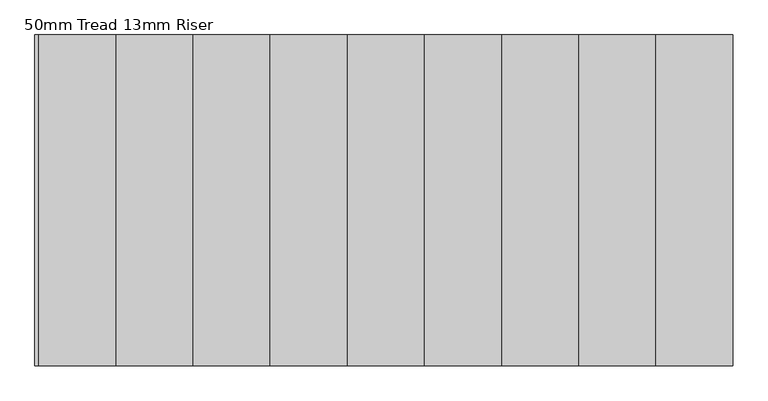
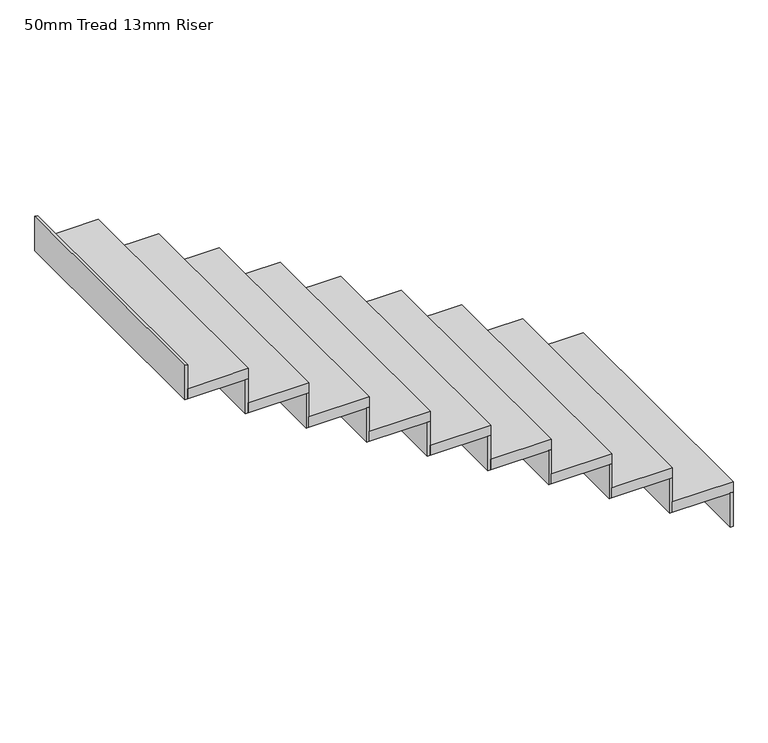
"""IFC4 building model written with IfcOpenShell, lengths in millimetres: stair flight geometry, 50mm Tread 13mm Riser."""

from ifc_helpers import new_model, si_unit, frame, origin, place, context, project, spatial, polyline, outline, extrude, source, transform, mapped, element, save


def stair_flight_50mm_tread_13mm_riser_bf7483d6(model_context):
    return source(origin(), model_context, "Body", "SweptSolid", [
        extrude(outline(polyline([(-80889.6407976, 11339.2777512), (-80877.1407976, 11339.2777512), (-80877.1407976, 10139.2777512), (-80889.6407976, 10139.2777512), (-80889.6407976, 11339.2777512)])), frame((0.0, 0.0, 45959.7115278), z_axis=(0.0, 0.0, 1.0), x_axis=(1.0, 0.0, 0.0)), (0.0, 0.0, 1.0), 167.2465025),
        extrude(outline(polyline([(-81157.1407976, 10139.2777512), (-81157.1407976, 11339.2777512), (-80877.1407976, 11339.2777512), (-80877.1407976, 10139.2777512), (-81157.1407976, 10139.2777512)])), frame((0.0, 0.0, 46126.9580303), z_axis=(0.0, 0.0, 1.0), x_axis=(1.0, 0.0, 0.0)), (0.0, 0.0, 1.0), 50.0),
        extrude(outline(polyline([(-81169.6407976, 11339.2777512), (-81157.1407976, 11339.2777512), (-81157.1407976, 10139.2777512), (-81169.6407976, 10139.2777512), (-81169.6407976, 11339.2777512)])), frame((0.0, 0.0, 46126.9580303), z_axis=(0.0, 0.0, 1.0), x_axis=(1.0, 0.0, 0.0)), (0.0, 0.0, 1.0), 167.2465025),
        extrude(outline(polyline([(-81437.1407976, 10139.2777512), (-81437.1407976, 11339.2777512), (-81157.1407976, 11339.2777512), (-81157.1407976, 10139.2777512), (-81437.1407976, 10139.2777512)])), frame((0.0, 0.0, 46294.2045329), z_axis=(0.0, 0.0, 1.0), x_axis=(1.0, 0.0, 0.0)), (0.0, 0.0, 1.0), 50.0),
        extrude(outline(polyline([(-81449.6407976, 11339.2777512), (-81437.1407976, 11339.2777512), (-81437.1407976, 10139.2777512), (-81449.6407976, 10139.2777512), (-81449.6407976, 11339.2777512)])), frame((0.0, 0.0, 46294.2045329), z_axis=(0.0, 0.0, 1.0), x_axis=(1.0, 0.0, 0.0)), (0.0, 0.0, 1.0), 167.2465025),
        extrude(outline(polyline([(-81717.1407976, 10139.2777512), (-81717.1407976, 11339.2777512), (-81437.1407976, 11339.2777512), (-81437.1407976, 10139.2777512), (-81717.1407976, 10139.2777512)])), frame((0.0, 0.0, 46461.4510354), z_axis=(0.0, 0.0, 1.0), x_axis=(1.0, 0.0, 0.0)), (0.0, 0.0, 1.0), 50.0),
        extrude(outline(polyline([(-81729.6407976, 11339.2777512), (-81717.1407976, 11339.2777512), (-81717.1407976, 10139.2777512), (-81729.6407976, 10139.2777512), (-81729.6407976, 11339.2777512)])), frame((0.0, 0.0, 46461.4510354), z_axis=(0.0, 0.0, 1.0), x_axis=(1.0, 0.0, 0.0)), (0.0, 0.0, 1.0), 167.2465025),
        extrude(outline(polyline([(-81997.1407976, 10139.2777512), (-81997.1407976, 11339.2777512), (-81717.1407976, 11339.2777512), (-81717.1407976, 10139.2777512), (-81997.1407976, 10139.2777512)])), frame((0.0, 0.0, 46628.6975379), z_axis=(0.0, 0.0, 1.0), x_axis=(1.0, 0.0, 0.0)), (0.0, 0.0, 1.0), 50.0),
        extrude(outline(polyline([(-82009.6407976, 11339.2777512), (-81997.1407976, 11339.2777512), (-81997.1407976, 10139.2777512), (-82009.6407976, 10139.2777512), (-82009.6407976, 11339.2777512)])), frame((0.0, 0.0, 46628.6975379), z_axis=(0.0, 0.0, 1.0), x_axis=(1.0, 0.0, 0.0)), (0.0, 0.0, 1.0), 167.2465025),
        extrude(outline(polyline([(-82277.1407976, 10139.2777512), (-82277.1407976, 11339.2777512), (-81997.1407976, 11339.2777512), (-81997.1407976, 10139.2777512), (-82277.1407976, 10139.2777512)])), frame((0.0, 0.0, 46795.9440405), z_axis=(0.0, 0.0, 1.0), x_axis=(1.0, 0.0, 0.0)), (0.0, 0.0, 1.0), 50.0),
        extrude(outline(polyline([(-82289.6407976, 11339.2777512), (-82277.1407976, 11339.2777512), (-82277.1407976, 10139.2777512), (-82289.6407976, 10139.2777512), (-82289.6407976, 11339.2777512)])), frame((0.0, 0.0, 46795.9440405), z_axis=(0.0, 0.0, 1.0), x_axis=(1.0, 0.0, 0.0)), (0.0, 0.0, 1.0), 167.2465025),
        extrude(outline(polyline([(-82557.1407976, 10139.2777512), (-82557.1407976, 11339.2777512), (-82277.1407976, 11339.2777512), (-82277.1407976, 10139.2777512), (-82557.1407976, 10139.2777512)])), frame((0.0, 0.0, 46963.190543), z_axis=(0.0, 0.0, 1.0), x_axis=(1.0, 0.0, 0.0)), (0.0, 0.0, 1.0), 50.0),
        extrude(outline(polyline([(-82569.6407976, 11339.2777512), (-82557.1407976, 11339.2777512), (-82557.1407976, 10139.2777512), (-82569.6407976, 10139.2777512), (-82569.6407976, 11339.2777512)])), frame((0.0, 0.0, 46963.190543), z_axis=(0.0, 0.0, 1.0), x_axis=(1.0, 0.0, 0.0)), (0.0, 0.0, 1.0), 167.2465025),
        extrude(outline(polyline([(-82837.1407976, 10139.2777512), (-82837.1407976, 11339.2777512), (-82557.1407976, 11339.2777512), (-82557.1407976, 10139.2777512), (-82837.1407976, 10139.2777512)])), frame((0.0, 0.0, 47130.4370455), z_axis=(0.0, 0.0, 1.0), x_axis=(1.0, 0.0, 0.0)), (0.0, 0.0, 1.0), 50.0),
        extrude(outline(polyline([(-82849.6407976, 11339.2777512), (-82837.1407976, 11339.2777512), (-82837.1407976, 10139.2777512), (-82849.6407976, 10139.2777512), (-82849.6407976, 11339.2777512)])), frame((0.0, 0.0, 47130.4370455), z_axis=(0.0, 0.0, 1.0), x_axis=(1.0, 0.0, 0.0)), (0.0, 0.0, 1.0), 167.2465025),
        extrude(outline(polyline([(-83117.1407976, 10139.2777512), (-83117.1407976, 11339.2777512), (-82837.1407976, 11339.2777512), (-82837.1407976, 10139.2777512), (-83117.1407976, 10139.2777512)])), frame((0.0, 0.0, 47297.6835481), z_axis=(0.0, 0.0, 1.0), x_axis=(1.0, 0.0, 0.0)), (0.0, 0.0, 1.0), 50.0),
        extrude(outline(polyline([(-83129.6407976, 11339.2777512), (-83117.1407976, 11339.2777512), (-83117.1407976, 10139.2777512), (-83129.6407976, 10139.2777512), (-83129.6407976, 11339.2777512)])), frame((0.0, 0.0, 47297.6835481), z_axis=(0.0, 0.0, 1.0), x_axis=(1.0, 0.0, 0.0)), (0.0, 0.0, 1.0), 167.2465025),
        extrude(outline(polyline([(-83409.6407976, 11339.2777512), (-83397.1407976, 11339.2777512), (-83397.1407976, 10139.2777512), (-83409.6407976, 10139.2777512), (-83409.6407976, 11339.2777512)])), frame((0.0, 0.0, 47464.9300506), z_axis=(0.0, 0.0, 1.0), x_axis=(1.0, 0.0, 0.0)), (0.0, 0.0, 1.0), 167.2465025),
        extrude(outline(polyline([(-83397.1407976, 10139.2777512), (-83397.1407976, 11339.2777512), (-83117.1407976, 11339.2777512), (-83117.1407976, 10139.2777512), (-83397.1407976, 10139.2777512)])), frame((0.0, 0.0, 47464.9300506), z_axis=(0.0, 0.0, 1.0), x_axis=(1.0, 0.0, 0.0)), (0.0, 0.0, 1.0), 50.0),
    ])


if __name__ == "__main__":
    model = new_model("IFC4")
    model_context = context("Model", 3, world=origin())
    ifc_project = project(units=[si_unit("LENGTHUNIT", "METRE", prefix="MILLI")], contexts=[model_context])
    site = spatial("IfcSite", under=ifc_project)
    building = spatial("IfcBuilding", under=site)
    placement = place(None, origin())
    stair_flight_50mm_tread_13mm_riser_shape = stair_flight_50mm_tread_13mm_riser_bf7483d6(model_context)
    element("IfcStairFlight", 1, ObjectType="50mm Tread 13mm Riser", at=placement, inside=building, context=model_context, shape_type="MappedRepresentation", body=[
        mapped(stair_flight_50mm_tread_13mm_riser_shape, transform((0.0, 0.0, 0.0), x_axis=(1.0, 0.0, 0.0), y_axis=(0.0, 1.0, 0.0), z_axis=(0.0, 0.0, 1.0))),
    ])
    save(model, "model.ifc")
